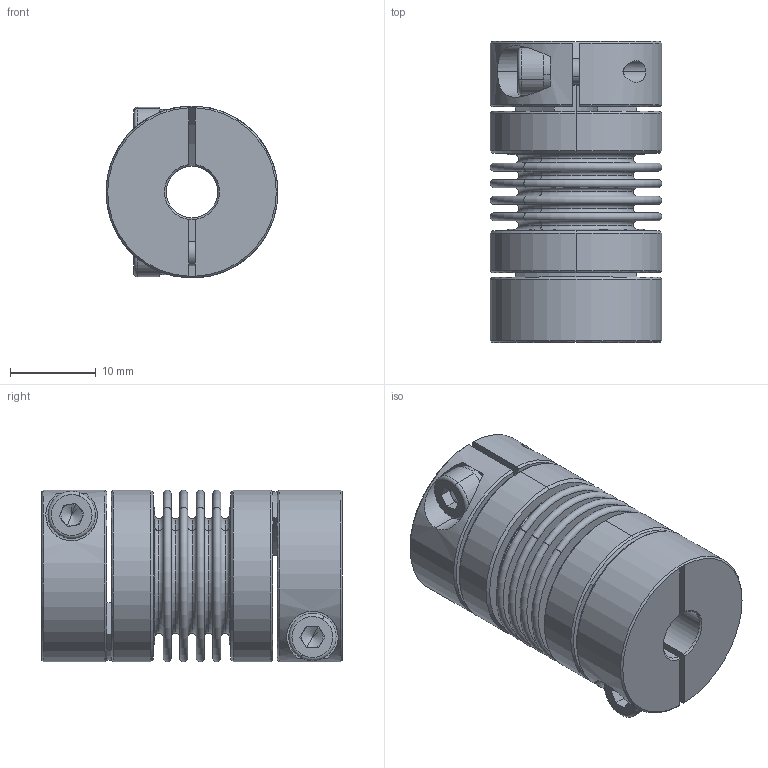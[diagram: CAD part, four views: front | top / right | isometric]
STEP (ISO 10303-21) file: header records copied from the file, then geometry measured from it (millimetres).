
FILE_DESCRIPTION (( 'STEP AP203' ), '1' );
FILE_NAME ('LB-B-D20L34-6-8.STEP', '2021-11-04T01:40:44', ( '' ), ( '' ), 'SwSTEP 2.0', 'SolidWorks 2018', '' );
FILE_SCHEMA (( 'CONFIG_CONTROL_DESIGN' ));
Length unit declared in the file: millimetre
Products named in the file (2): 零件4^LB-B-D20L34 波纹管联轴器-组装体; LB-B-D20L34-6-8
Assembly tree (1 placements, depth 2):
  LB-B-D20L34-6-8
    零件4^LB-B-D20L34 波纹管联轴器-组装体
Bounding box: 20 x 35 x 20 mm (x, y, z)
Volume: 5905.5 mm3; surface area: 9522.9 mm2
Topology: 1 solids, 1 shells, 246 faces, 572 edges, 354 vertices
Faces by surface type: plane 83, torus 68, cylinder 61, cone 34
Entity records: 7500 total; most frequent: CARTESIAN_POINT 1478, DIRECTION 1376, ORIENTED_EDGE 1136, AXIS2_PLACEMENT_3D 604, EDGE_CURVE 568, VERTEX_POINT 354, CIRCLE 354, EDGE_LOOP 288
